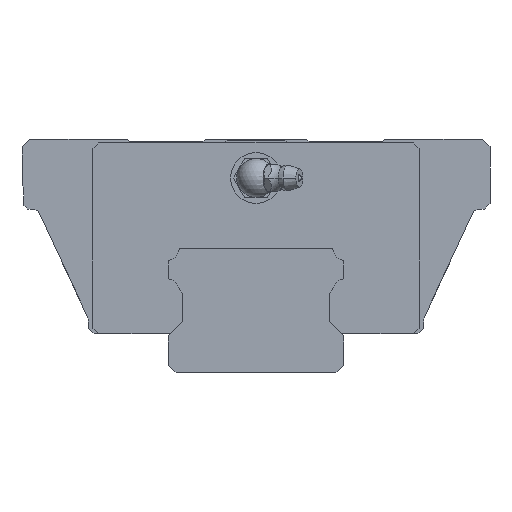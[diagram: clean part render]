
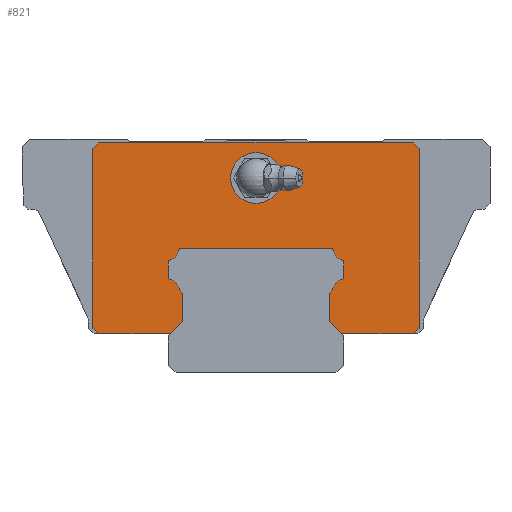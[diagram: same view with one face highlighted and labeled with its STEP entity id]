
A CAD part, front view. The second image highlights one B-rep face of the part: STEP entity #821.
In plain terms, the highlighted planar face has unit normal (0, -1, 0).
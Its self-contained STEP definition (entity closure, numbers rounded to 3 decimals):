
#428=FACE_BOUND('',#1367,.T.);
#429=FACE_BOUND('',#1368,.T.);
#657=CIRCLE('',#4397,6.5);
#658=CIRCLE('',#4398,3.2);
#659=CIRCLE('',#4399,0.5);
#660=CIRCLE('',#4400,0.5);
#661=CIRCLE('',#4401,3.2);
#662=CIRCLE('',#4402,0.5);
#663=CIRCLE('',#4403,0.5);
#664=CIRCLE('',#4404,3.2);
#665=CIRCLE('',#4405,0.5);
#666=CIRCLE('',#4406,0.5);
#667=CIRCLE('',#4407,3.2);
#821=ADVANCED_FACE('',(#428,#429),#1013,.T.);
#1013=PLANE('',#4408);
#1367=EDGE_LOOP('',(#1969));
#1368=EDGE_LOOP('',(#1970,#1971,#1972,#1973,#1974,#1975,#1976,#1977,#1978,
#1979,#1980,#1981,#1982,#1983,#1984,#1985,#1986,#1987,#1988,#1989,#1990,
#1991,#1992,#1993,#1994,#1995,#1996,#1997));
#1969=ORIENTED_EDGE('',*,*,#3255,.F.);
#1970=ORIENTED_EDGE('',*,*,#3256,.T.);
#1971=ORIENTED_EDGE('',*,*,#3257,.T.);
#1972=ORIENTED_EDGE('',*,*,#3258,.T.);
#1973=ORIENTED_EDGE('',*,*,#3259,.T.);
#1974=ORIENTED_EDGE('',*,*,#3260,.T.);
#1975=ORIENTED_EDGE('',*,*,#3261,.T.);
#1976=ORIENTED_EDGE('',*,*,#3262,.T.);
#1977=ORIENTED_EDGE('',*,*,#3263,.T.);
#1978=ORIENTED_EDGE('',*,*,#3264,.T.);
#1979=ORIENTED_EDGE('',*,*,#3265,.T.);
#1980=ORIENTED_EDGE('',*,*,#3266,.T.);
#1981=ORIENTED_EDGE('',*,*,#3267,.T.);
#1982=ORIENTED_EDGE('',*,*,#3268,.T.);
#1983=ORIENTED_EDGE('',*,*,#3269,.T.);
#1984=ORIENTED_EDGE('',*,*,#3270,.T.);
#1985=ORIENTED_EDGE('',*,*,#3271,.T.);
#1986=ORIENTED_EDGE('',*,*,#3272,.T.);
#1987=ORIENTED_EDGE('',*,*,#3273,.T.);
#1988=ORIENTED_EDGE('',*,*,#3274,.T.);
#1989=ORIENTED_EDGE('',*,*,#3275,.T.);
#1990=ORIENTED_EDGE('',*,*,#3276,.T.);
#1991=ORIENTED_EDGE('',*,*,#3277,.T.);
#1992=ORIENTED_EDGE('',*,*,#3278,.T.);
#1993=ORIENTED_EDGE('',*,*,#3279,.T.);
#1994=ORIENTED_EDGE('',*,*,#3280,.T.);
#1995=ORIENTED_EDGE('',*,*,#3281,.T.);
#1996=ORIENTED_EDGE('',*,*,#3282,.T.);
#1997=ORIENTED_EDGE('',*,*,#3283,.T.);
#2818=VERTEX_POINT('',#6437);
#2819=VERTEX_POINT('',#6439);
#2820=VERTEX_POINT('',#6440);
#2821=VERTEX_POINT('',#6442);
#2822=VERTEX_POINT('',#6444);
#2823=VERTEX_POINT('',#6446);
#2824=VERTEX_POINT('',#6448);
#2825=VERTEX_POINT('',#6450);
#2826=VERTEX_POINT('',#6452);
#2827=VERTEX_POINT('',#6454);
#2828=VERTEX_POINT('',#6456);
#2829=VERTEX_POINT('',#6458);
#2830=VERTEX_POINT('',#6460);
#2831=VERTEX_POINT('',#6462);
#2832=VERTEX_POINT('',#6464);
#2833=VERTEX_POINT('',#6466);
#2834=VERTEX_POINT('',#6468);
#2835=VERTEX_POINT('',#6470);
#2836=VERTEX_POINT('',#6472);
#2837=VERTEX_POINT('',#6474);
#2838=VERTEX_POINT('',#6476);
#2839=VERTEX_POINT('',#6478);
#2840=VERTEX_POINT('',#6480);
#2841=VERTEX_POINT('',#6482);
#2842=VERTEX_POINT('',#6484);
#2843=VERTEX_POINT('',#6486);
#2844=VERTEX_POINT('',#6488);
#2845=VERTEX_POINT('',#6490);
#2846=VERTEX_POINT('',#6492);
#3255=EDGE_CURVE('',#2818,#2818,#657,.T.);
#3256=EDGE_CURVE('',#2819,#2820,#3707,.T.);
#3257=EDGE_CURVE('',#2820,#2821,#3708,.T.);
#3258=EDGE_CURVE('',#2821,#2822,#3709,.T.);
#3259=EDGE_CURVE('',#2822,#2823,#3710,.T.);
#3260=EDGE_CURVE('',#2823,#2824,#3711,.T.);
#3261=EDGE_CURVE('',#2824,#2825,#3712,.T.);
#3262=EDGE_CURVE('',#2825,#2826,#3713,.T.);
#3263=EDGE_CURVE('',#2826,#2827,#3714,.T.);
#3264=EDGE_CURVE('',#2827,#2828,#3715,.T.);
#3265=EDGE_CURVE('',#2828,#2829,#3716,.T.);
#3266=EDGE_CURVE('',#2829,#2830,#3717,.T.);
#3267=EDGE_CURVE('',#2830,#2831,#3718,.T.);
#3268=EDGE_CURVE('',#2831,#2832,#3719,.T.);
#3269=EDGE_CURVE('',#2832,#2833,#3720,.T.);
#3270=EDGE_CURVE('',#2833,#2834,#658,.T.);
#3271=EDGE_CURVE('',#2834,#2835,#659,.T.);
#3272=EDGE_CURVE('',#2835,#2836,#3721,.T.);
#3273=EDGE_CURVE('',#2836,#2837,#660,.T.);
#3274=EDGE_CURVE('',#2837,#2838,#661,.T.);
#3275=EDGE_CURVE('',#2838,#2839,#662,.T.);
#3276=EDGE_CURVE('',#2839,#2840,#3722,.T.);
#3277=EDGE_CURVE('',#2840,#2841,#663,.T.);
#3278=EDGE_CURVE('',#2841,#2842,#664,.T.);
#3279=EDGE_CURVE('',#2842,#2843,#665,.T.);
#3280=EDGE_CURVE('',#2843,#2844,#3723,.T.);
#3281=EDGE_CURVE('',#2844,#2845,#666,.T.);
#3282=EDGE_CURVE('',#2845,#2846,#667,.T.);
#3283=EDGE_CURVE('',#2846,#2819,#3724,.T.);
#3707=LINE('',#6438,#4047);
#3708=LINE('',#6441,#4048);
#3709=LINE('',#6443,#4049);
#3710=LINE('',#6445,#4050);
#3711=LINE('',#6447,#4051);
#3712=LINE('',#6449,#4052);
#3713=LINE('',#6451,#4053);
#3714=LINE('',#6453,#4054);
#3715=LINE('',#6455,#4055);
#3716=LINE('',#6457,#4056);
#3717=LINE('',#6459,#4057);
#3718=LINE('',#6461,#4058);
#3719=LINE('',#6463,#4059);
#3720=LINE('',#6465,#4060);
#3721=LINE('',#6471,#4061);
#3722=LINE('',#6479,#4062);
#3723=LINE('',#6487,#4063);
#3724=LINE('',#6493,#4064);
#4047=VECTOR('',#5069,1.);
#4048=VECTOR('',#5070,1.);
#4049=VECTOR('',#5071,1.);
#4050=VECTOR('',#5072,1.);
#4051=VECTOR('',#5073,1.);
#4052=VECTOR('',#5074,1.);
#4053=VECTOR('',#5075,1.);
#4054=VECTOR('',#5076,1.);
#4055=VECTOR('',#5077,1.);
#4056=VECTOR('',#5078,1.);
#4057=VECTOR('',#5079,1.);
#4058=VECTOR('',#5080,1.);
#4059=VECTOR('',#5081,1.);
#4060=VECTOR('',#5082,1.);
#4061=VECTOR('',#5087,1.);
#4062=VECTOR('',#5094,1.);
#4063=VECTOR('',#5101,1.);
#4064=VECTOR('',#5106,1.);
#4397=AXIS2_PLACEMENT_3D('',#6436,#5067,#5068);
#4398=AXIS2_PLACEMENT_3D('',#6467,#5083,#5084);
#4399=AXIS2_PLACEMENT_3D('',#6469,#5085,#5086);
#4400=AXIS2_PLACEMENT_3D('',#6473,#5088,#5089);
#4401=AXIS2_PLACEMENT_3D('',#6475,#5090,#5091);
#4402=AXIS2_PLACEMENT_3D('',#6477,#5092,#5093);
#4403=AXIS2_PLACEMENT_3D('',#6481,#5095,#5096);
#4404=AXIS2_PLACEMENT_3D('',#6483,#5097,#5098);
#4405=AXIS2_PLACEMENT_3D('',#6485,#5099,#5100);
#4406=AXIS2_PLACEMENT_3D('',#6489,#5102,#5103);
#4407=AXIS2_PLACEMENT_3D('',#6491,#5104,#5105);
#4408=AXIS2_PLACEMENT_3D('',#6494,#5107,#5108);
#5067=DIRECTION('',(0.,-1.,0.));
#5068=DIRECTION('',(1.,0.,0.));
#5069=DIRECTION('',(0.,0.,-1.));
#5070=DIRECTION('',(0.707,0.,-0.707));
#5071=DIRECTION('',(1.,0.,0.));
#5072=DIRECTION('',(0.707,0.,0.707));
#5073=DIRECTION('',(0.,0.,1.));
#5074=DIRECTION('',(-0.707,0.,0.707));
#5075=DIRECTION('',(-1.,0.,0.));
#5076=DIRECTION('',(-0.707,0.,-0.707));
#5077=DIRECTION('',(0.,0.,-1.));
#5078=DIRECTION('',(0.707,0.,-0.707));
#5079=DIRECTION('',(1.,0.,0.));
#5080=DIRECTION('',(0.707,0.,0.707));
#5081=DIRECTION('',(0.,0.,1.));
#5082=DIRECTION('',(-0.707,0.,0.707));
#5083=DIRECTION('',(0.,-1.,0.));
#5084=DIRECTION('',(0.,0.,-1.));
#5085=DIRECTION('',(0.,1.,0.));
#5086=DIRECTION('',(0.,0.,-1.));
#5087=DIRECTION('',(0.,0.,1.));
#5088=DIRECTION('',(0.,1.,0.));
#5089=DIRECTION('',(0.,0.,-1.));
#5090=DIRECTION('',(0.,-1.,0.));
#5091=DIRECTION('',(0.,0.,-1.));
#5092=DIRECTION('',(0.,1.,0.));
#5093=DIRECTION('',(0.,0.,-1.));
#5094=DIRECTION('',(1.,0.,0.));
#5095=DIRECTION('',(0.,1.,0.));
#5096=DIRECTION('',(0.,0.,-1.));
#5097=DIRECTION('',(0.,-1.,0.));
#5098=DIRECTION('',(0.,0.,-1.));
#5099=DIRECTION('',(0.,1.,0.));
#5100=DIRECTION('',(0.,0.,-1.));
#5101=DIRECTION('',(0.,0.,-1.));
#5102=DIRECTION('',(0.,1.,0.));
#5103=DIRECTION('',(0.,0.,-1.));
#5104=DIRECTION('',(0.,-1.,0.));
#5105=DIRECTION('',(0.,0.,-1.));
#5106=DIRECTION('',(-0.707,0.,-0.707));
#5107=DIRECTION('',(0.,-1.,0.));
#5108=DIRECTION('',(0.,0.,-1.));
#6436=CARTESIAN_POINT('',(0.,-17.,50.));
#6437=CARTESIAN_POINT('',(6.5,-17.,50.));
#6438=CARTESIAN_POINT('',(18.75,-17.,99.3));
#6439=CARTESIAN_POINT('',(18.75,-17.,20.45));
#6440=CARTESIAN_POINT('',(18.75,-17.,13.25));
#6441=CARTESIAN_POINT('',(-33.65,-17.,65.65));
#6442=CARTESIAN_POINT('',(22.,-17.,10.));
#6443=CARTESIAN_POINT('',(-40.3,-17.,10.));
#6444=CARTESIAN_POINT('',(40.3,-17.,10.));
#6445=CARTESIAN_POINT('',(40.3,-17.,10.));
#6446=CARTESIAN_POINT('',(41.8,-17.,11.5));
#6447=CARTESIAN_POINT('',(41.8,-17.,11.5));
#6448=CARTESIAN_POINT('',(41.8,-17.,57.5));
#6449=CARTESIAN_POINT('',(41.8,-17.,57.5));
#6450=CARTESIAN_POINT('',(40.3,-17.,59.));
#6451=CARTESIAN_POINT('',(40.3,-17.,59.));
#6452=CARTESIAN_POINT('',(-40.3,-17.,59.));
#6453=CARTESIAN_POINT('',(-40.3,-17.,59.));
#6454=CARTESIAN_POINT('',(-41.8,-17.,57.5));
#6455=CARTESIAN_POINT('',(-41.8,-17.,57.5));
#6456=CARTESIAN_POINT('',(-41.8,-17.,11.5));
#6457=CARTESIAN_POINT('',(-41.8,-17.,11.5));
#6458=CARTESIAN_POINT('',(-40.3,-17.,10.));
#6459=CARTESIAN_POINT('',(-40.3,-17.,10.));
#6460=CARTESIAN_POINT('',(-22.,-17.,10.));
#6461=CARTESIAN_POINT('',(33.65,-17.,65.65));
#6462=CARTESIAN_POINT('',(-18.75,-17.,13.25));
#6463=CARTESIAN_POINT('',(-18.75,-17.,99.3));
#6464=CARTESIAN_POINT('',(-18.75,-17.,20.45));
#6465=CARTESIAN_POINT('',(-48.8,-17.,50.5));
#6466=CARTESIAN_POINT('',(-19.674,-17.,21.374));
#6467=CARTESIAN_POINT('',(-22.84,-17.,20.91));
#6468=CARTESIAN_POINT('',(-22.113,-17.,24.027));
#6469=CARTESIAN_POINT('',(-22.,-17.,24.514));
#6470=CARTESIAN_POINT('',(-22.5,-17.,24.514));
#6471=CARTESIAN_POINT('',(-22.5,-17.,99.3));
#6472=CARTESIAN_POINT('',(-22.5,-17.,28.486));
#6473=CARTESIAN_POINT('',(-22.,-17.,28.486));
#6474=CARTESIAN_POINT('',(-22.113,-17.,28.973));
#6475=CARTESIAN_POINT('',(-22.84,-17.,32.09));
#6476=CARTESIAN_POINT('',(-19.681,-17.,31.58));
#6477=CARTESIAN_POINT('',(-19.187,-17.,31.5));
#6478=CARTESIAN_POINT('',(-19.187,-17.,32.));
#6479=CARTESIAN_POINT('',(0.,-17.,32.));
#6480=CARTESIAN_POINT('',(19.187,-17.,32.));
#6481=CARTESIAN_POINT('',(19.187,-17.,31.5));
#6482=CARTESIAN_POINT('',(19.681,-17.,31.58));
#6483=CARTESIAN_POINT('',(22.84,-17.,32.09));
#6484=CARTESIAN_POINT('',(22.113,-17.,28.973));
#6485=CARTESIAN_POINT('',(22.,-17.,28.486));
#6486=CARTESIAN_POINT('',(22.5,-17.,28.486));
#6487=CARTESIAN_POINT('',(22.5,-17.,99.3));
#6488=CARTESIAN_POINT('',(22.5,-17.,24.514));
#6489=CARTESIAN_POINT('',(22.,-17.,24.514));
#6490=CARTESIAN_POINT('',(22.113,-17.,24.027));
#6491=CARTESIAN_POINT('',(22.84,-17.,20.91));
#6492=CARTESIAN_POINT('',(19.674,-17.,21.374));
#6493=CARTESIAN_POINT('',(48.8,-17.,50.5));
#6494=CARTESIAN_POINT('',(0.,-17.,99.3));
